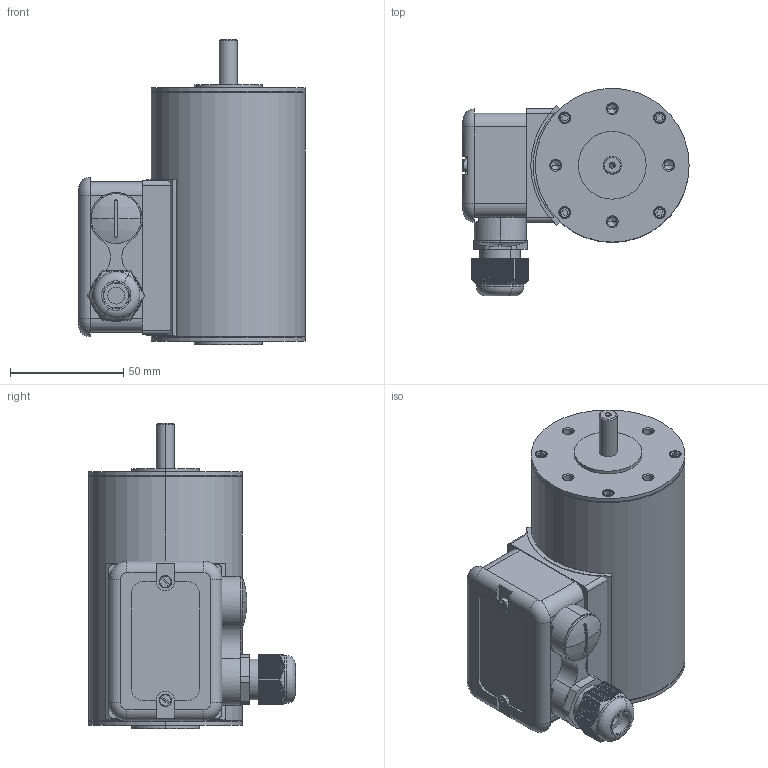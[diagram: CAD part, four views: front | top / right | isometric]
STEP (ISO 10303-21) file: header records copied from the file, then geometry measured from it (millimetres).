
FILE_DESCRIPTION (( 'STEP AP214' ), '1' );
FILE_NAME ('KD662.STEP', '2012-04-16T12:51:24', ( ' ' ), ( '' ), 'SwSTEP 2.0', 'SolidWorks 2010', '' );
FILE_SCHEMA (( 'AUTOMOTIVE_DESIGN' ));
Length unit declared in the file: millimetre
Products named in the file (12): KD662; 918083010; 935285000_KD 6; 937201020; 937202011; 951120003; 951156003; 937205002; 918088000; 918088002; 951124003
Assembly tree (20 placements, depth 3):
  KD662
    951124003  x8
    KD662
    935285000_KD 6
    918083010
      937202011
      951156003  x2
      918088002
      937205002
      951120003  x2
      918088000
      937201020
Bounding box: 100 x 91.5 x 135 mm (x, y, z)
Volume: 465535.1 mm3; surface area: 79021.7 mm2
Topology: 19 solids, 19 shells, 845 faces, 2181 edges, 1391 vertices
Faces by surface type: plane 400, cylinder 295, cone 128, torus 20, sphere 2
Entity records: 23874 total; most frequent: CARTESIAN_POINT 5091, ORIENTED_EDGE 3722, DIRECTION 3586, EDGE_CURVE 1861, AXIS2_PLACEMENT_3D 1307, VERTEX_POINT 1208, LINE 972, VECTOR 972
